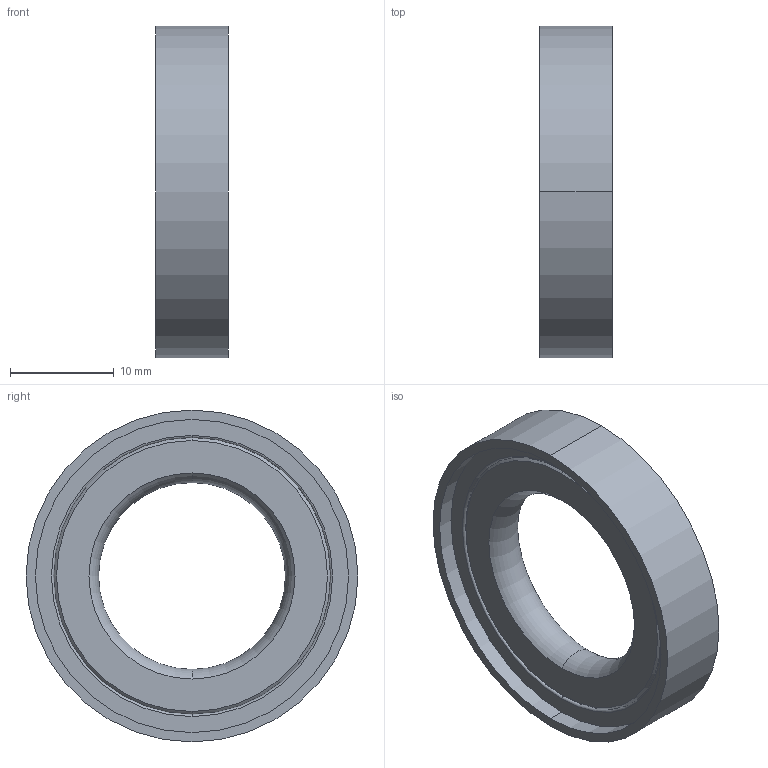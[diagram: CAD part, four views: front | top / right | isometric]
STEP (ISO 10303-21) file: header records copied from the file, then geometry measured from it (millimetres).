
FILE_DESCRIPTION((''),'2;1');
FILE_NAME('18353_SW0002','2016-03-08T',('l0100062'),('Copyright by Leybold GmbH'),'PRO/ENGINEER BY PARAMETRIC TECHNOLOGY CORPORATION, 2015280','PRO/ENGINEER BY PARAMETRIC TECHNOLOGY CORPORATION, 2015280','');
FILE_SCHEMA(('AUTOMOTIVE_DESIGN { 1 0 10303 214 1 1 1 1 }'));
Length unit declared in the file: millimetre
Products named in the file (1): 18353_SW0002
Bounding box: 7 x 32 x 32 mm (x, y, z)
Volume: 2344.3 mm3; surface area: 2321.4 mm2
Topology: 1 solids, 1 shells, 22 faces, 44 edges, 28 vertices
Faces by surface type: torus 10, plane 6, cylinder 6
Entity records: 940 total; most frequent: DIRECTION 126, CARTESIAN_POINT 96, ORIENTED_EDGE 88, AXIS2_PLACEMENT_3D 60, COLOUR_RGB 48, EDGE_CURVE 44, FILL_AREA_STYLE_COLOUR 40, FILL_AREA_STYLE 40
